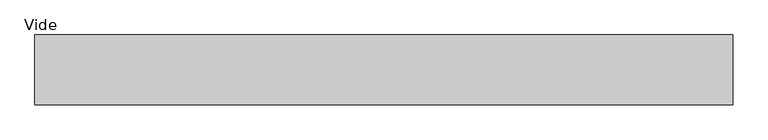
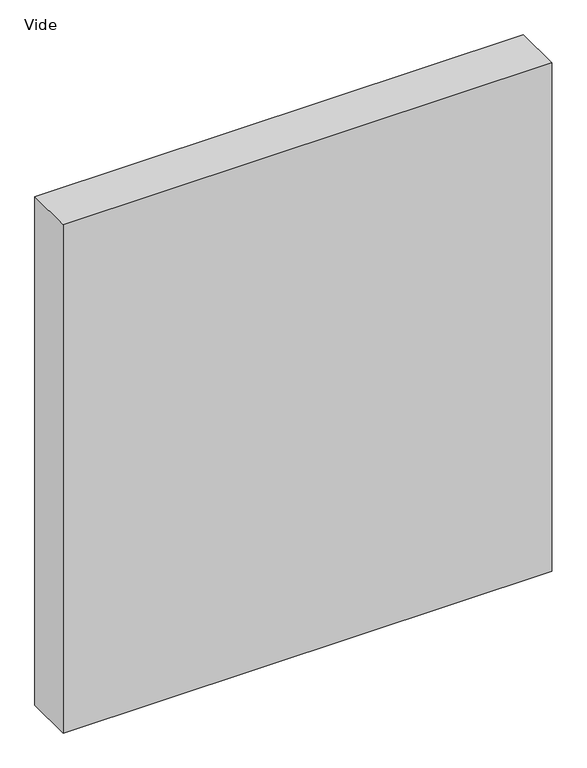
"""IFC4 building model written with IfcOpenShell, lengths in millimetres: plate geometry, Panneau système vide : Vide."""

from ifc_helpers import new_model, si_unit, origin, origin_with_axes, place, context, project, spatial, polyline, outline, extrude, source, transform, mapped, element, save


def vide_5bf1e96c(model_context):
    return source(origin(), model_context, "Body", "SweptSolid", [
        extrude(outline(polyline([(500.0, 50.0), (-500.0, 50.0), (-500.0, 150.0), (500.0, 150.0), (500.0, 50.0)])), origin_with_axes(), (0.0, 0.0, 1.0), 1100.0),
    ])


if __name__ == "__main__":
    model = new_model("IFC4")
    model_context = context("Model", 3, world=origin())
    ifc_project = project(units=[si_unit("LENGTHUNIT", "METRE", prefix="MILLI")], contexts=[model_context])
    site = spatial("IfcSite", under=ifc_project)
    building = spatial("IfcBuilding", under=site)
    placement = place(None, origin())
    vide_shape = vide_5bf1e96c(model_context)
    element("IfcPlate", 1, ObjectType="Panneau système vide : Vide", at=placement, inside=building, context=model_context, shape_type="MappedRepresentation", body=[
        mapped(vide_shape, transform((0.0, 0.0, 0.0), x_axis=(1.0, 0.0, 0.0), y_axis=(0.0, 1.0, 0.0), z_axis=(0.0, 0.0, 1.0))),
    ])
    save(model, "model.ifc")
